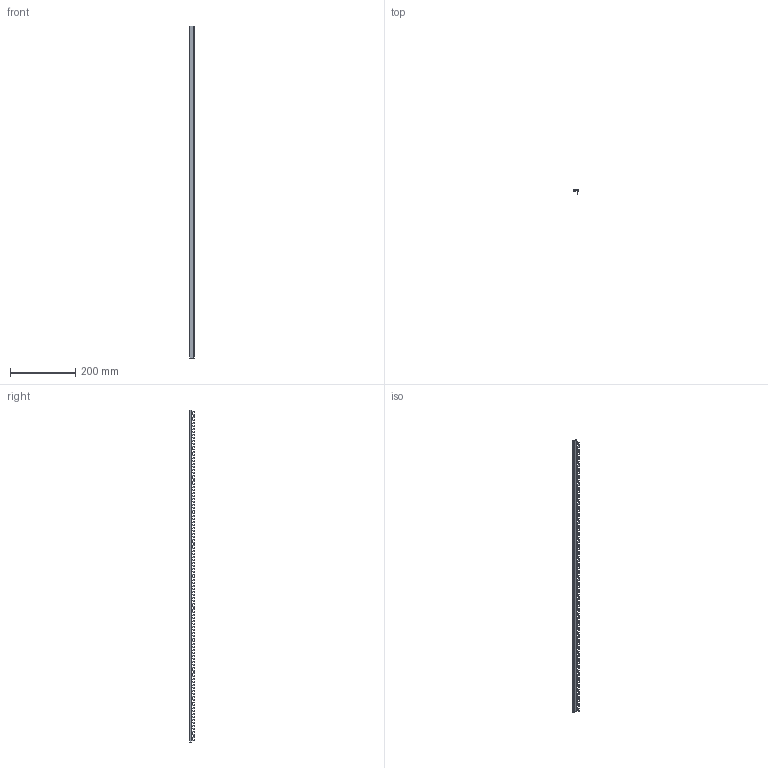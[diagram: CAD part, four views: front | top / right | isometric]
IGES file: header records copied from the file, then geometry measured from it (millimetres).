
Start section: SolidWorks IGES file using analytic representation for surfaces
Global section: file name: U:\14_RD\05_Technical_office\04_Office\Hrdinova\3D modely - IGES\Minia\G1L-1000-12.IGS; native system: SolidWorks 2011; preprocessor: SolidWorks 2011; author: adhrja3; date: 170615.074142; units: millimetre
Bounding box: 14.36 x 14.64 x 1016 mm (x, y, z)
Surface area: 94016.4 mm2 (no closed solid volume)
Topology: 0 solids, 0 shells, 1162 faces, 12166 edges, 12166 vertices
Faces by surface type: revolution 639, bspline 523
